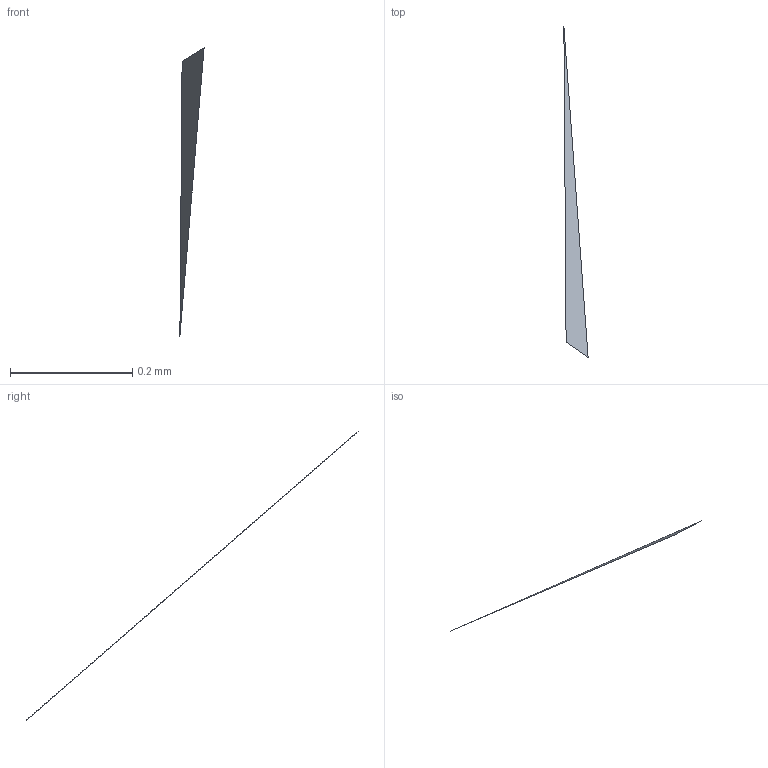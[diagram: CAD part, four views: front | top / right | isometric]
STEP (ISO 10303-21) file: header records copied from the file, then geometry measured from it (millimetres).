
FILE_DESCRIPTION(/* description */ ('STEP AP242 Edition 2','CAx-IF Rec.Pracs.---Representation and Presentation of Product Manufacturing Information (PMI)---4.0---2014-10-13','CAx-IF Rec.Pracs.---3D Tessellated Geometry---0.4---2014-09-14','2;1','CAx-IF Rec.Pracs.---User Defined Attributes---1.5---2016-08-15'),/* implementation_level */ '2;1');
FILE_NAME(/* name */ 'Assembly 1 - Part 107',/* time_stamp */ '2026-03-29T21:14:56Z',/* author */ (''),/* organization */ (''),/* preprocessor_version */ 'ST-DEVELOPER v20',/* originating_system */ 'ONSHAPE BY PTC INC, 1.212',/* authorisation */ ' ');
FILE_SCHEMA (('AP242_MANAGED_MODEL_BASED_3D_ENGINEERING_MIM_LF { 1 0 10303 442 3 1 4 }'));
Length unit declared in the file: metre
Products named in the file (1): Part 107
Bounding box: 0.04 x 0.54 x 0.47 mm (x, y, z)
Surface area: 0 mm2 (no closed solid volume)
Topology: 0 solids, 1 shells, 1 faces, 0 edges, 0 vertices
Faces by surface type: other 1
Entity records: 31 total; most frequent: DIRECTION 2, SHAPE_REPRESENTATION_RELATIONSHIP 1, TESSELLATED_SHAPE_REPRESENTATION 1, STYLED_ITEM 1, PRESENTATION_STYLE_ASSIGNMENT 1, SURFACE_STYLE_USAGE 1, SURFACE_SIDE_STYLE 1, SURFACE_STYLE_FILL_AREA 1
